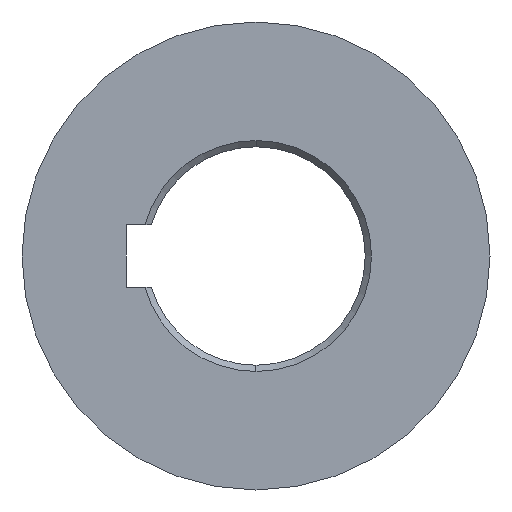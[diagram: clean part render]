
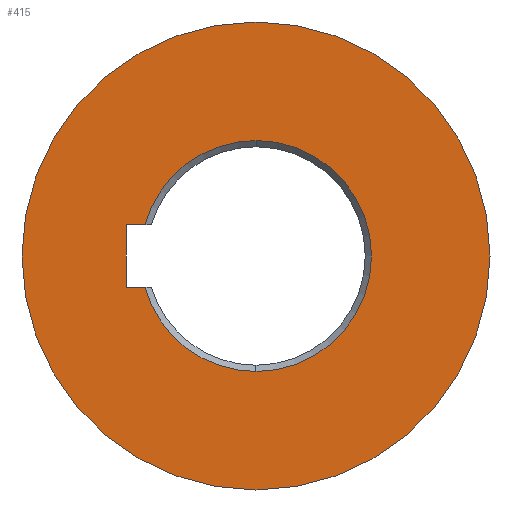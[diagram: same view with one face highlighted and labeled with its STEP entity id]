
A CAD part, left-side view. The second image highlights one B-rep face of the part: STEP entity #415.
In plain terms, the highlighted planar face has unit normal (-1, 0, 0).
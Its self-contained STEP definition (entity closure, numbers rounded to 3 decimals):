
#6 = CARTESIAN_POINT ( 'NONE',  ( 0., 20.8, -5. ) ) ;
#33 = VERTEX_POINT ( 'NONE', #1042 ) ;
#55 = DIRECTION ( 'NONE',  ( 1., 0., 0. ) ) ;
#65 = DIRECTION ( 'NONE',  ( 0., 1., 0. ) ) ;
#75 = CARTESIAN_POINT ( 'NONE',  ( 0., 17.812, -5. ) ) ;
#82 = ORIENTED_EDGE ( 'NONE', *, *, #466, .F. ) ;
#100 = CARTESIAN_POINT ( 'NONE',  ( 0., 0., 18.5 ) ) ;
#115 = CARTESIAN_POINT ( 'NONE',  ( 0., 0., 0. ) ) ;
#128 = CIRCLE ( 'NONE', #561, 18.5 ) ;
#140 = VERTEX_POINT ( 'NONE', #569 ) ;
#141 = AXIS2_PLACEMENT_3D ( 'NONE', #419, #841, #762 ) ;
#145 = DIRECTION ( 'NONE',  ( -1., 0., 0. ) ) ;
#153 = DIRECTION ( 'NONE',  ( 0., 0., -1. ) ) ;
#184 = VERTEX_POINT ( 'NONE', #566 ) ;
#189 = CIRCLE ( 'NONE', #141, 37.5 ) ;
#192 = CARTESIAN_POINT ( 'NONE',  ( 0., 17.5, 0. ) ) ;
#207 = ORIENTED_EDGE ( 'NONE', *, *, #952, .F. ) ;
#224 = AXIS2_PLACEMENT_3D ( 'NONE', #732, #897, #818 ) ;
#226 = CARTESIAN_POINT ( 'NONE',  ( 0., 0., 0. ) ) ;
#227 = CIRCLE ( 'NONE', #783, 37.5 ) ;
#248 = ORIENTED_EDGE ( 'NONE', *, *, #427, .T. ) ;
#254 = EDGE_CURVE ( 'NONE', #184, #953, #189, .T. ) ;
#271 = PLANE ( 'NONE',  #337 ) ;
#272 = VERTEX_POINT ( 'NONE', #6 ) ;
#290 = LINE ( 'NONE', #305, #834 ) ;
#295 = DIRECTION ( 'NONE',  ( 0., -1., 0. ) ) ;
#305 = CARTESIAN_POINT ( 'NONE',  ( 0., 10.8, 5. ) ) ;
#334 = ORIENTED_EDGE ( 'NONE', *, *, #842, .T. ) ;
#337 = AXIS2_PLACEMENT_3D ( 'NONE', #192, #55, #946 ) ;
#375 = AXIS2_PLACEMENT_3D ( 'NONE', #115, #436, #536 ) ;
#387 = CARTESIAN_POINT ( 'NONE',  ( 0., 20.8, 5. ) ) ;
#404 = ORIENTED_EDGE ( 'NONE', *, *, #965, .T. ) ;
#415 = ADVANCED_FACE ( 'NONE', ( #863, #798 ), #271, .F. ) ;
#419 = CARTESIAN_POINT ( 'NONE',  ( 0., 0., 0. ) ) ;
#427 = EDGE_CURVE ( 'NONE', #1047, #33, #483, .T. ) ;
#436 = DIRECTION ( 'NONE',  ( 1., 0., 0. ) ) ;
#461 = DIRECTION ( 'NONE',  ( 0., 0., -1. ) ) ;
#466 = EDGE_CURVE ( 'NONE', #880, #272, #815, .T. ) ;
#468 = ORIENTED_EDGE ( 'NONE', *, *, #822, .F. ) ;
#474 = DIRECTION ( 'NONE',  ( 1., 0., 0. ) ) ;
#483 = CIRCLE ( 'NONE', #375, 18.5 ) ;
#536 = DIRECTION ( 'NONE',  ( 0., 0., -1. ) ) ;
#559 = CIRCLE ( 'NONE', #224, 18.5 ) ;
#561 = AXIS2_PLACEMENT_3D ( 'NONE', #226, #474, #461 ) ;
#566 = CARTESIAN_POINT ( 'NONE',  ( 0., 0., 37.5 ) ) ;
#569 = CARTESIAN_POINT ( 'NONE',  ( 0., 17.812, 5. ) ) ;
#601 = ORIENTED_EDGE ( 'NONE', *, *, #254, .T. ) ;
#638 = CARTESIAN_POINT ( 'NONE',  ( 0., 10.8, -5. ) ) ;
#658 = ORIENTED_EDGE ( 'NONE', *, *, #854, .T. ) ;
#732 = CARTESIAN_POINT ( 'NONE',  ( 0., 0., 0. ) ) ;
#742 = CARTESIAN_POINT ( 'NONE',  ( 0., 20.8, -5. ) ) ;
#762 = DIRECTION ( 'NONE',  ( 0., 0., 1. ) ) ;
#783 = AXIS2_PLACEMENT_3D ( 'NONE', #1064, #145, #966 ) ;
#785 = EDGE_LOOP ( 'NONE', ( #601, #658 ) ) ;
#798 = FACE_OUTER_BOUND ( 'NONE', #785, .T. ) ;
#815 = LINE ( 'NONE', #742, #835 ) ;
#818 = DIRECTION ( 'NONE',  ( 0., 0., -1. ) ) ;
#822 = EDGE_CURVE ( 'NONE', #140, #880, #290, .T. ) ;
#829 = EDGE_LOOP ( 'NONE', ( #334, #248, #404, #207, #82, #468 ) ) ;
#834 = VECTOR ( 'NONE', #65, 1000. ) ;
#835 = VECTOR ( 'NONE', #153, 1000. ) ;
#841 = DIRECTION ( 'NONE',  ( -1., 0., 0. ) ) ;
#842 = EDGE_CURVE ( 'NONE', #140, #1047, #559, .T. ) ;
#854 = EDGE_CURVE ( 'NONE', #953, #184, #227, .T. ) ;
#863 = FACE_BOUND ( 'NONE', #829, .T. ) ;
#880 = VERTEX_POINT ( 'NONE', #387 ) ;
#882 = VERTEX_POINT ( 'NONE', #75 ) ;
#884 = LINE ( 'NONE', #638, #1044 ) ;
#897 = DIRECTION ( 'NONE',  ( 1., 0., 0. ) ) ;
#946 = DIRECTION ( 'NONE',  ( 0., 0., -1. ) ) ;
#952 = EDGE_CURVE ( 'NONE', #272, #882, #884, .T. ) ;
#953 = VERTEX_POINT ( 'NONE', #961 ) ;
#961 = CARTESIAN_POINT ( 'NONE',  ( 0., 0., -37.5 ) ) ;
#965 = EDGE_CURVE ( 'NONE', #33, #882, #128, .T. ) ;
#966 = DIRECTION ( 'NONE',  ( 0., 0., 1. ) ) ;
#1042 = CARTESIAN_POINT ( 'NONE',  ( 0., 0., -18.5 ) ) ;
#1044 = VECTOR ( 'NONE', #295, 1000. ) ;
#1047 = VERTEX_POINT ( 'NONE', #100 ) ;
#1064 = CARTESIAN_POINT ( 'NONE',  ( 0., 0., 0. ) ) ;
